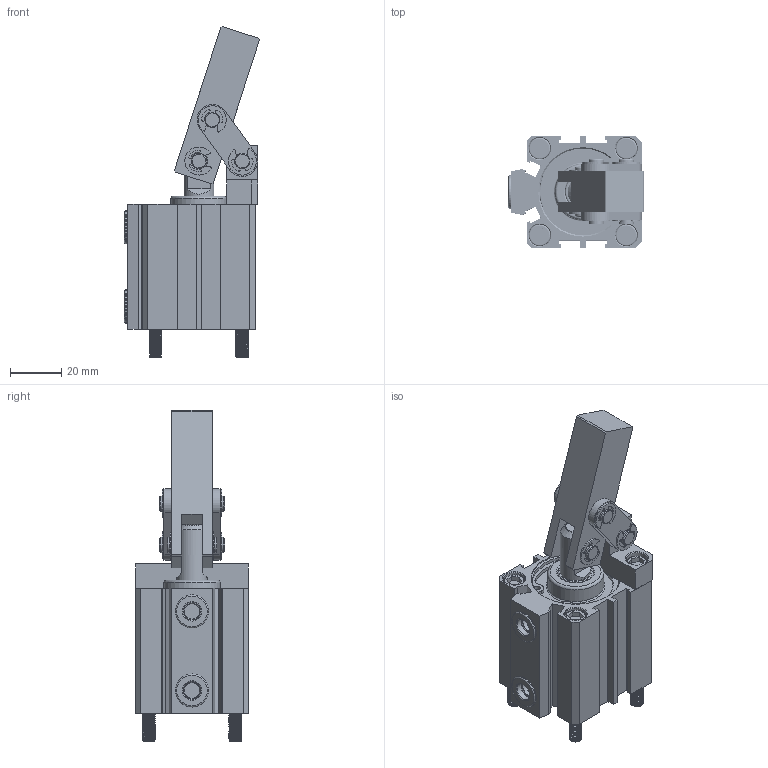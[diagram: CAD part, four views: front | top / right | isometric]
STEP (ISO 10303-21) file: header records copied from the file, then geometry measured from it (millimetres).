
FILE_DESCRIPTION(/* description */ ('STEP AP203'),/* implementation_level */ '2;1');
FILE_NAME(/* name */ 'E:\SERWER_ZAPAS\Pneumatic\CALC PNEUMATIC LEVERAGE BEZ MS\CALC-32\CALC-32_OTWARTY.stp',/* time_stamp */ '2019-02-07T11:01:47+01:00',/* author */ ('Admin'),/* organization */ ('Î¢ÈíÖÐ¹ú'),/* preprocessor_version */ 'ST-DEVELOPER v17.2',/* originating_system */ 'Autodesk Inventor 2019',/* authorisation */ '');
FILE_SCHEMA (('AUTOMOTIVE_DESIGN { 1 0 10303 214 3 1 1 }'));
Length unit declared in the file: millimetre
Products named in the file (17): CALC-32_OTWARTY; ¶ÌÏú; ºó¸Ç; ³¤Ïú; ¸ÕÌ×; Ñ¹±Û; »îÈû¸Ë; Á¬¸ËÖ§³Å×ù; Ç°¸Ç; ms321ÂÝ1; ±¾Ìå; »îÈû; Á¬¸Ë; ¸Ë¿¨3211; 1-8¶ÂÍ·MS32; Áã¼þ133; ¿¨»É
Assembly tree (27 placements, depth 2):
  CALC-32_OTWARTY
    ¸Ë¿¨3211  x2
    ¶ÌÏú
    ºó¸Ç
    ³¤Ïú  x2
    Á¬¸Ë  x2
    ¿¨»É  x6
    ¸ÕÌ×
    Ñ¹±Û
    1-8¶ÂÍ·MS32  x2
    »îÈû¸Ë
    Á¬¸ËÖ§³Å×ù
    ms321ÂÝ1  x2
    Áã¼þ133  x2
    Ç°¸Ç
    ±¾Ìå
    »îÈû
Bounding box: 52.98 x 44 x 129.73 mm (x, y, z)
Volume: 86041.7 mm3; surface area: 59294 mm2
Topology: 27 solids, 27 shells, 768 faces, 2144 edges, 1493 vertices
Faces by surface type: cylinder 359, plane 283, torus 68, cone 37, bspline 21
Full cylindrical faces by diameter (mm): 2 x2, 2.5 x4, 5 x120, 5.2 x2, 5.202 x4, 5.5 x6, 6 x18, 7 x4, 8 x19, 8.5 x10, 8.7 x2, 9 x1, 10 x6, 12 x3, 13 x3, 14 x2, 14.8 x1, 16 x1, 19 x2, 20 x1, 22 x1, 23 x1, 24 x1, 25 x1, 26 x1, 26.2 x1, 27 x2, 30.6 x1, 30.8 x1, 31.5 x2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
Entity records: 34946 total; most frequent: CARTESIAN_POINT 21035, DIRECTION 2828, ORIENTED_EDGE 2798, EDGE_CURVE 1399, AXIS2_PLACEMENT_3D 1129, VERTEX_POINT 985, CIRCLE 594, EDGE_LOOP 590
